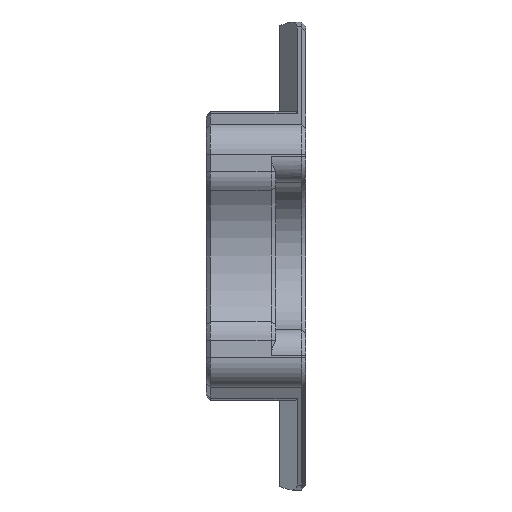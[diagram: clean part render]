
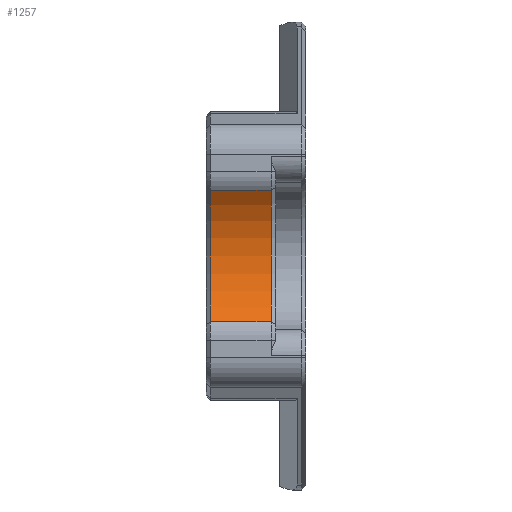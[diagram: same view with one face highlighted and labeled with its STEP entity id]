
A CAD part, left-side view. The second image highlights one B-rep face of the part: STEP entity #1257.
In plain terms, the highlighted cylindrical face has radius 12.5 mm (diameter 25 mm), a partial arc.
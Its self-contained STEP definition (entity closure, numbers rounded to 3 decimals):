
#47 = AXIS2_PLACEMENT_3D ( 'NONE', #1342, #2773, #2446 ) ;
#114 = DIRECTION ( 'NONE',  ( 0., 1., 0. ) ) ;
#471 = VERTEX_POINT ( 'NONE', #3131 ) ;
#727 = CARTESIAN_POINT ( 'NONE',  ( -61.278, -0.5, 7.603 ) ) ;
#798 = VERTEX_POINT ( 'NONE', #3294 ) ;
#820 = CYLINDRICAL_SURFACE ( 'NONE', #47, 12.5 ) ;
#837 = LINE ( 'NONE', #1626, #1140 ) ;
#1140 = VECTOR ( 'NONE', #3008, 1000. ) ;
#1172 = CARTESIAN_POINT ( 'NONE',  ( -71.2, -0.5, 0. ) ) ;
#1223 = EDGE_CURVE ( 'NONE', #471, #2832, #837, .T. ) ;
#1257 = ADVANCED_FACE ( 'NONE', ( #2790 ), #820, .F. ) ;
#1294 = ORIENTED_EDGE ( 'NONE', *, *, #1223, .T. ) ;
#1342 = CARTESIAN_POINT ( 'NONE',  ( -71.2, -11.5, 0. ) ) ;
#1349 = AXIS2_PLACEMENT_3D ( 'NONE', #3444, #2146, #1539 ) ;
#1514 = LINE ( 'NONE', #1830, #2393 ) ;
#1539 = DIRECTION ( 'NONE',  ( 0., 0., 1. ) ) ;
#1626 = CARTESIAN_POINT ( 'NONE',  ( -61.278, -11.5, 7.603 ) ) ;
#1830 = CARTESIAN_POINT ( 'NONE',  ( -61.278, -11.5, -7.603 ) ) ;
#1880 = CIRCLE ( 'NONE', #2332, 12.5 ) ;
#2146 = DIRECTION ( 'NONE',  ( 0., -1., 0. ) ) ;
#2332 = AXIS2_PLACEMENT_3D ( 'NONE', #1172, #114, #3377 ) ;
#2367 = EDGE_CURVE ( 'NONE', #2768, #471, #2847, .T. ) ;
#2393 = VECTOR ( 'NONE', #2622, 1000. ) ;
#2444 = ORIENTED_EDGE ( 'NONE', *, *, #2662, .T. ) ;
#2446 = DIRECTION ( 'NONE',  ( 0., 0., 1. ) ) ;
#2622 = DIRECTION ( 'NONE',  ( 0., -1., 0. ) ) ;
#2662 = EDGE_CURVE ( 'NONE', #2832, #798, #1880, .T. ) ;
#2752 = EDGE_CURVE ( 'NONE', #798, #2768, #1514, .T. ) ;
#2768 = VERTEX_POINT ( 'NONE', #2927 ) ;
#2773 = DIRECTION ( 'NONE',  ( 0., 1., 0. ) ) ;
#2790 = FACE_OUTER_BOUND ( 'NONE', #3373, .T. ) ;
#2832 = VERTEX_POINT ( 'NONE', #727 ) ;
#2847 = CIRCLE ( 'NONE', #1349, 12.5 ) ;
#2927 = CARTESIAN_POINT ( 'NONE',  ( -61.278, -7.5, -7.603 ) ) ;
#3008 = DIRECTION ( 'NONE',  ( 0., 1., 0. ) ) ;
#3131 = CARTESIAN_POINT ( 'NONE',  ( -61.278, -7.5, 7.603 ) ) ;
#3294 = CARTESIAN_POINT ( 'NONE',  ( -61.278, -0.5, -7.603 ) ) ;
#3373 = EDGE_LOOP ( 'NONE', ( #3405, #3557, #1294, #2444 ) ) ;
#3377 = DIRECTION ( 'NONE',  ( 0., 0., -1. ) ) ;
#3405 = ORIENTED_EDGE ( 'NONE', *, *, #2752, .T. ) ;
#3444 = CARTESIAN_POINT ( 'NONE',  ( -71.2, -7.5, 0. ) ) ;
#3557 = ORIENTED_EDGE ( 'NONE', *, *, #2367, .T. ) ;
